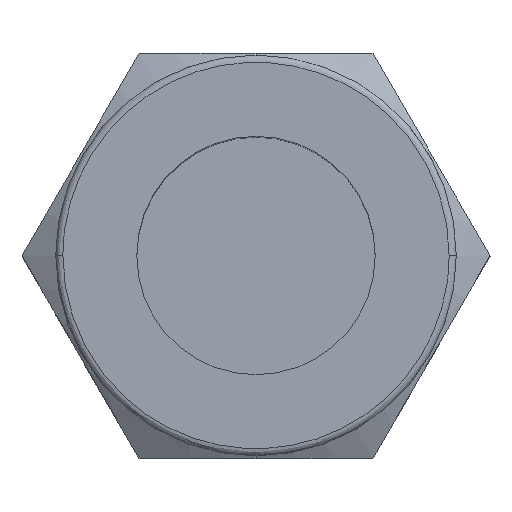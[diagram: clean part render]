
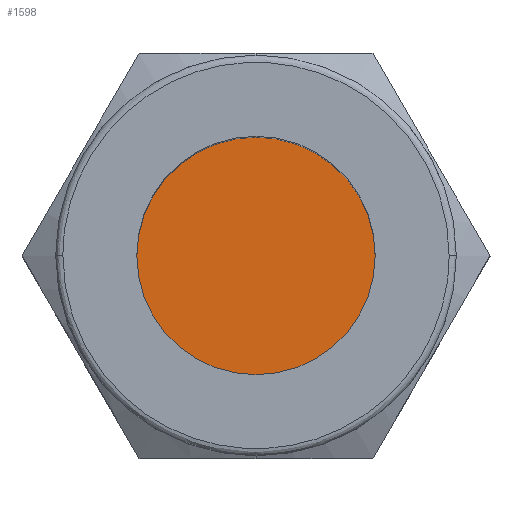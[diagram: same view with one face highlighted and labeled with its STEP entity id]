
A CAD part, top view. The second image highlights one B-rep face of the part: STEP entity #1598.
In plain terms, the highlighted planar face has unit normal (0, 0, 1).
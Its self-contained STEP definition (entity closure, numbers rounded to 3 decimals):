
#11 = EDGE_LOOP ( 'NONE', ( #1735, #1039 ) ) ;
#59 = EDGE_CURVE ( 'NONE', #739, #1733, #1158, .T. ) ;
#224 = AXIS2_PLACEMENT_3D ( 'NONE', #1796, #514, #469 ) ;
#304 = EDGE_CURVE ( 'NONE', #1733, #739, #885, .T. ) ;
#309 = CARTESIAN_POINT ( 'NONE',  ( 5., 0., 9.1 ) ) ;
#469 = DIRECTION ( 'NONE',  ( 1., 0., 0. ) ) ;
#514 = DIRECTION ( 'NONE',  ( 0., 0., 1. ) ) ;
#685 = AXIS2_PLACEMENT_3D ( 'NONE', #1728, #1520, #1421 ) ;
#739 = VERTEX_POINT ( 'NONE', #309 ) ;
#743 = DIRECTION ( 'NONE',  ( 0., 0., 1. ) ) ;
#753 = DIRECTION ( 'NONE',  ( 1., 0., 0. ) ) ;
#782 = FACE_OUTER_BOUND ( 'NONE', #11, .T. ) ;
#866 = AXIS2_PLACEMENT_3D ( 'NONE', #1810, #743, #753 ) ;
#885 = CIRCLE ( 'NONE', #866, 5. ) ;
#1039 = ORIENTED_EDGE ( 'NONE', *, *, #304, .T. ) ;
#1158 = CIRCLE ( 'NONE', #685, 5. ) ;
#1354 = PLANE ( 'NONE',  #224 ) ;
#1421 = DIRECTION ( 'NONE',  ( 1., 0., 0. ) ) ;
#1520 = DIRECTION ( 'NONE',  ( 0., 0., 1. ) ) ;
#1598 = ADVANCED_FACE ( '13', ( #782 ), #1354, .T. ) ;
#1660 = CARTESIAN_POINT ( 'NONE',  ( -5., 0., 9.1 ) ) ;
#1728 = CARTESIAN_POINT ( 'NONE',  ( 0., 0., 9.1 ) ) ;
#1733 = VERTEX_POINT ( 'NONE', #1660 ) ;
#1735 = ORIENTED_EDGE ( 'NONE', *, *, #59, .T. ) ;
#1796 = CARTESIAN_POINT ( 'NONE',  ( 10.013, 2.683, 9.1 ) ) ;
#1810 = CARTESIAN_POINT ( 'NONE',  ( 0., 0., 9.1 ) ) ;
